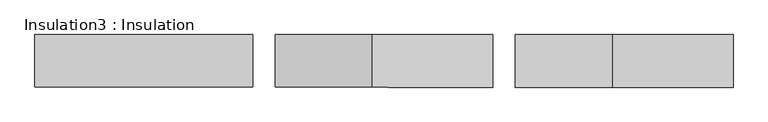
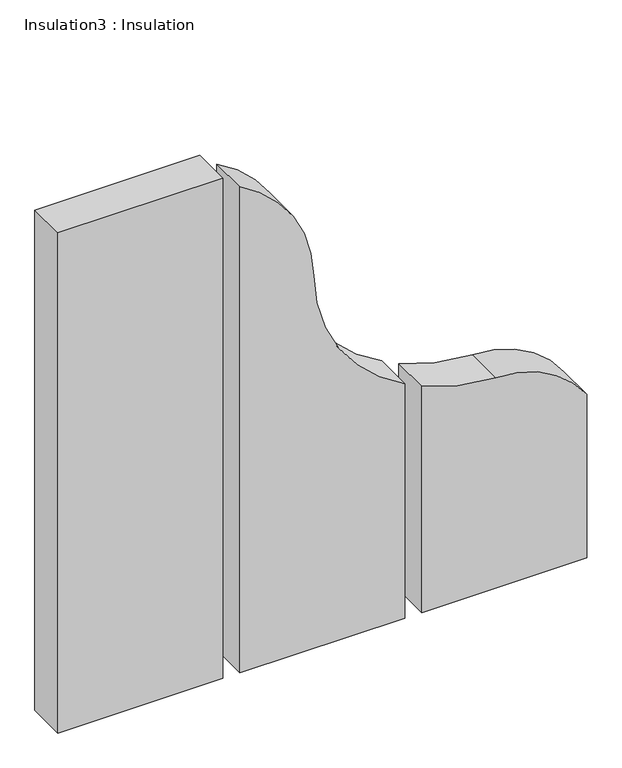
"""IFC4 building model written with IfcOpenShell, lengths in millimetres: proxy geometry, Insulation3 : Insulation."""

from ifc_helpers import new_model, si_unit, point, frame, frame_2d, origin, place, context, project, spatial, polyline, circle_curve, trimmed, segment, composite_curve, outline, extrude, source, transform, mapped, element, save


def insulation3_insulation_35de20be(model_context):
    return source(origin(), model_context, "Body", "SweptSolid", [
        extrude(outline(polyline([(5059.5820282, 34387.2421435), (4691.2820282, 34387.2421435), (4691.2820282, 34476.1421435), (5059.5820282, 34476.1421435), (5059.5820282, 34387.2421435)])), frame((0.0, 0.0, 38.1), z_axis=(0.0, 0.0, 1.0), x_axis=(1.0, 0.0, 0.0)), (0.0, 0.0, 1.0), 1181.1),
        extrude(outline(composite_curve([segment(polyline([(38.1, 5097.6820282), (38.1, 5465.9820282), (591.8706469, 5465.9820282)]), True, "CONTINUOUS"), segment(trimmed(circle_curve(frame_2d((925.1337293, 5636.744238)), 374.4649709), [point((591.8706469, 5465.9820282))], [point((918.4023164, 5262.3397742))], True, "CARTESIAN"), True, "CONTINUOUS"), segment(trimmed(circle_curve(frame_2d((912.871688, 4954.7235252)), 307.6659626), [point((918.4023164, 5262.3397742))], [point((1185.3073886, 5097.6820282))], False, "CARTESIAN"), True, "CONTINUOUS"), segment(polyline([(1185.3073886, 5097.6820282), (38.1, 5097.6820282)]), True, "CONTINUOUS")], self_intersect=False)), frame((0.0, 34387.2421435, 0.0), z_axis=(0.0, 1.0, 0.0), x_axis=(0.0, 0.0, 1.0)), (0.0, 0.0, 1.0), 88.9),
        extrude(outline(composite_curve([segment(polyline([(38.1, 5504.0820282), (38.1, 5872.3820282), (424.2455858, 5872.3820282)]), True, "CONTINUOUS"), segment(trimmed(circle_curve(frame_2d((286.9857554, 5665.1717143)), 248.5485369), [point((424.2455858, 5872.3820282))], [point((535.510358, 5668.6209323))], False, "CARTESIAN"), True, "CONTINUOUS"), segment(trimmed(circle_curve(frame_2d((948.5891228, 5674.3539612)), 413.1185466), [point((535.510358, 5668.6209323))], [point((572.1925203, 5504.0820282))], True, "CARTESIAN"), True, "CONTINUOUS"), segment(polyline([(572.1925203, 5504.0820282), (38.1, 5504.0820282)]), True, "CONTINUOUS")], self_intersect=False)), frame((0.0, 34387.2421435, 0.0), z_axis=(0.0, 1.0, 0.0), x_axis=(0.0, 0.0, 1.0)), (0.0, 0.0, 1.0), 88.9),
    ])


if __name__ == "__main__":
    model = new_model("IFC4")
    model_context = context("Model", 3, world=origin())
    ifc_project = project(units=[si_unit("LENGTHUNIT", "METRE", prefix="MILLI")], contexts=[model_context])
    site = spatial("IfcSite", under=ifc_project)
    building = spatial("IfcBuilding", under=site)
    placement = place(None, origin())
    insulation3_insulation_shape = insulation3_insulation_35de20be(model_context)
    element("IfcBuildingElementProxy", 1, Name="Insulation3 : Insulation", ObjectType="Insulation3 : Insulation", at=placement, inside=building, context=model_context, shape_type="MappedRepresentation", body=[
        mapped(insulation3_insulation_shape, transform((0.0, 0.0, 0.0), x_axis=(1.0, 0.0, 0.0), y_axis=(0.0, 1.0, 0.0), z_axis=(0.0, 0.0, 1.0))),
    ])
    save(model, "model.ifc")
